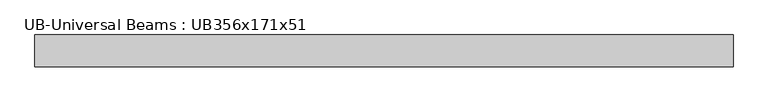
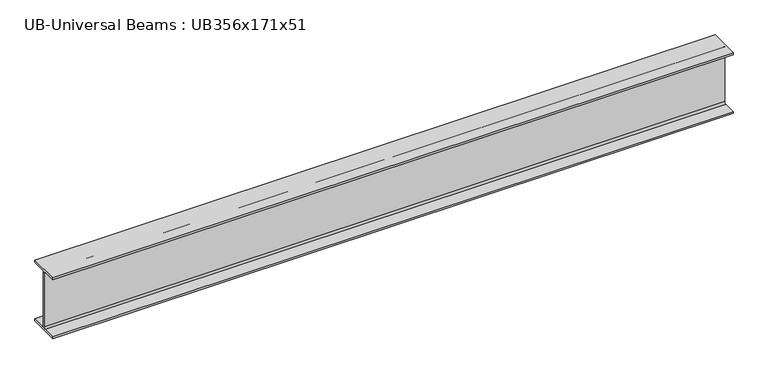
"""IFC4 building model written with IfcOpenShell, lengths in millimetres: beam geometry, UB-Universal Beams : UB356x171x51."""

from ifc_helpers import new_model, si_unit, point, frame, frame_2d, origin, place, context, project, spatial, polyline, circle_curve, trimmed, segment, composite_curve, outline, extrude, source, transform, mapped, element, save


def ub_universal_beams_ub356x171x51_dfc36663(model_context):
    return source(origin(), model_context, "Body", "SweptSolid", [
        extrude(outline(composite_curve([segment(polyline([(85.75, -166.0), (85.75, -177.5), (-85.75, -177.5), (-85.75, -166.0), (-13.9, -166.0)]), True, "CONTINUOUS"), segment(trimmed(circle_curve(frame_2d((-13.9, -155.8)), 10.2), [point((-13.9, -166.0))], [point((-3.7, -155.8))], True, "CARTESIAN"), True, "CONTINUOUS"), segment(polyline([(-3.7, -155.8), (-3.7, 155.8)]), True, "CONTINUOUS"), segment(trimmed(circle_curve(frame_2d((-13.9, 155.8)), 10.2), [point((-3.7, 155.8))], [point((-13.9, 166.0))], True, "CARTESIAN"), True, "CONTINUOUS"), segment(polyline([(-13.9, 166.0), (-85.75, 166.0), (-85.75, 177.5), (85.75, 177.5), (85.75, 166.0), (13.9, 166.0)]), True, "CONTINUOUS"), segment(trimmed(circle_curve(frame_2d((13.9, 155.8)), 10.2), [point((13.9, 166.0))], [point((3.7, 155.8))], True, "CARTESIAN"), True, "CONTINUOUS"), segment(polyline([(3.7, 155.8), (3.7, -155.8)]), True, "CONTINUOUS"), segment(trimmed(circle_curve(frame_2d((13.9, -155.8)), 10.2), [point((3.7, -155.8))], [point((13.9, -166.0))], True, "CARTESIAN"), True, "CONTINUOUS"), segment(polyline([(13.9, -166.0), (85.75, -166.0)]), True, "CONTINUOUS")], self_intersect=False)), frame((-1879.1, 0.0, 0.0), z_axis=(1.0, 0.0, 0.0), x_axis=(0.0, 1.0, 0.0)), (0.0, 0.0, 1.0), 3758.2),
    ])


if __name__ == "__main__":
    model = new_model("IFC4")
    model_context = context("Model", 3, world=origin())
    ifc_project = project(units=[si_unit("LENGTHUNIT", "METRE", prefix="MILLI")], contexts=[model_context])
    site = spatial("IfcSite", under=ifc_project)
    building = spatial("IfcBuilding", under=site)
    placement = place(None, origin())
    ub_universal_beams_ub356x171x51_shape = ub_universal_beams_ub356x171x51_dfc36663(model_context)
    element("IfcBeam", 1, ObjectType="UB-Universal Beams : UB356x171x51", at=placement, inside=building, context=model_context, shape_type="MappedRepresentation", body=[
        mapped(ub_universal_beams_ub356x171x51_shape, transform((0.0, 0.0, 0.0), x_axis=(1.0, 0.0, 0.0), y_axis=(0.0, 1.0, 0.0), z_axis=(0.0, 0.0, 1.0))),
    ])
    save(model, "model.ifc")
